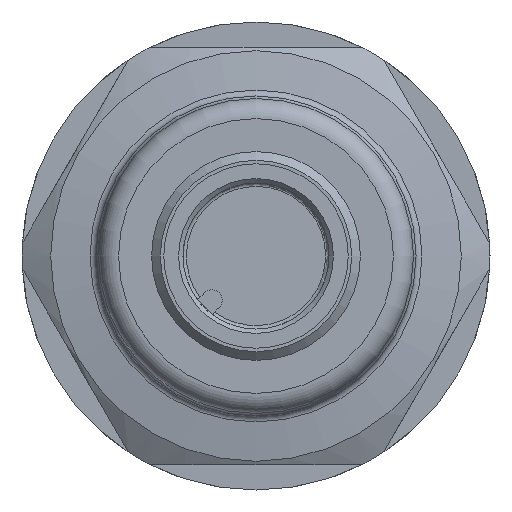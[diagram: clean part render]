
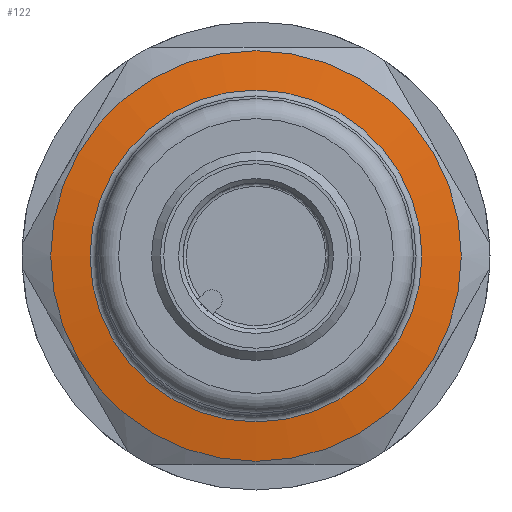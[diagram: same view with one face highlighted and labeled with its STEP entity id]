
A CAD part, left-side view. The second image highlights one B-rep face of the part: STEP entity #122.
In plain terms, the highlighted conical face has half-angle 81 degrees and reference radius 9.537 mm.
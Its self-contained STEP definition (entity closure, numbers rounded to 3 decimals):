
#122 = ADVANCED_FACE( '', ( #271, #272 ), #273, .T. );
#271 = FACE_OUTER_BOUND( '', #462, .T. );
#272 = FACE_BOUND( '', #463, .T. );
#273 = CONICAL_SURFACE( '', #464, 9.537, 1.414 );
#462 = EDGE_LOOP( '', ( #859 ) );
#463 = EDGE_LOOP( '', ( #860 ) );
#464 = AXIS2_PLACEMENT_3D( '', #861, #862, #863 );
#859 = ORIENTED_EDGE( '', *, *, #986, .F. );
#860 = ORIENTED_EDGE( '', *, *, #1052, .T. );
#861 = CARTESIAN_POINT( '', ( 53.753, 0., 0. ) );
#862 = DIRECTION( '', ( 1., 0., 0. ) );
#863 = DIRECTION( '', ( 0., 0., -1. ) );
#986 = EDGE_CURVE( '', #1102, #1102, #1103, .T. );
#1052 = EDGE_CURVE( '', #1217, #1217, #1218, .T. );
#1102 = VERTEX_POINT( '', #1472 );
#1103 = CIRCLE( '', #1473, 11.8 );
#1217 = VERTEX_POINT( '', #1812 );
#1218 = CIRCLE( '', #1813, 9.537 );
#1472 = CARTESIAN_POINT( '', ( 54.112, 0., -11.8 ) );
#1473 = AXIS2_PLACEMENT_3D( '', #1870, #1871, #1872 );
#1812 = CARTESIAN_POINT( '', ( 53.753, 0., -9.537 ) );
#1813 = AXIS2_PLACEMENT_3D( '', #1995, #1996, #1997 );
#1870 = CARTESIAN_POINT( '', ( 54.112, 0., 0. ) );
#1871 = DIRECTION( '', ( 1., 0., 0. ) );
#1872 = DIRECTION( '', ( 0., 0., -1. ) );
#1995 = CARTESIAN_POINT( '', ( 53.753, 0., 0. ) );
#1996 = DIRECTION( '', ( 1., 0., 0. ) );
#1997 = DIRECTION( '', ( 0., 0., -1. ) );
